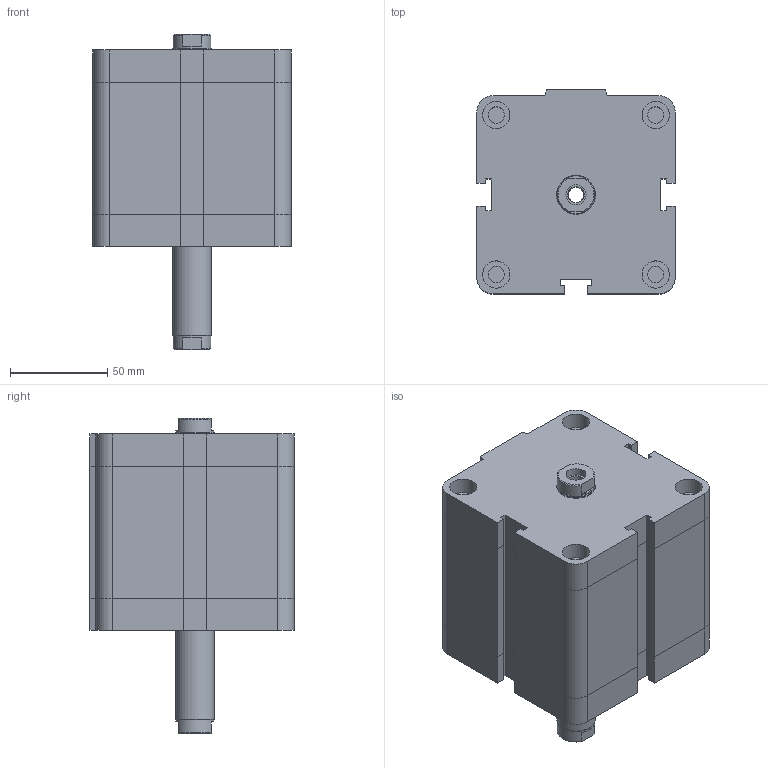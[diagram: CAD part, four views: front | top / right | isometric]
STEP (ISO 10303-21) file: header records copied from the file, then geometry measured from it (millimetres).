
FILE_DESCRIPTION((''),'2;1');
FILE_NAME('I:\Area Tecnica\Disegni\VARIE-3D\Componenti\EUROPE\15##_###_####_06_#\1581_80_0045_06_1.iam.stp','2009-04-20T15:11:49',(''),(''),'Autodesk Inventor 2009','Autodesk Inventor 2009','');
FILE_SCHEMA(('AUTOMOTIVE_DESIGN { 1 0 10303 214 1 1 1 1 }'));
Length unit declared in the file: millimetre
Products named in the file (3): 1581_80_0045_06_1; 1581_80_0045_03_1_C; 1561_80_0045_06_1_S
Assembly tree (2 placements, depth 2):
  1581_80_0045_06_1
    1581_80_0045_03_1_C
    1561_80_0045_06_1_S
Bounding box: 102 x 105 x 162 mm (x, y, z)
Volume: 1015122.3 mm3; surface area: 94621 mm2
Topology: 2 solids, 2 shells, 175 faces, 382 edges, 233 vertices
Faces by surface type: plane 114, bspline 30, cylinder 25, cone 6
Full cylindrical faces by diameter (mm): 8.376 x5, 10.3 x1, 14 x4, 19.5 x2, 20 x1
Entity records: 4805 total; most frequent: CARTESIAN_POINT 1042, DIRECTION 712, ORIENTED_EDGE 680, EDGE_CURVE 340, VECTOR 252, LINE 252, AXIS2_PLACEMENT_3D 230, EDGE_LOOP 230
